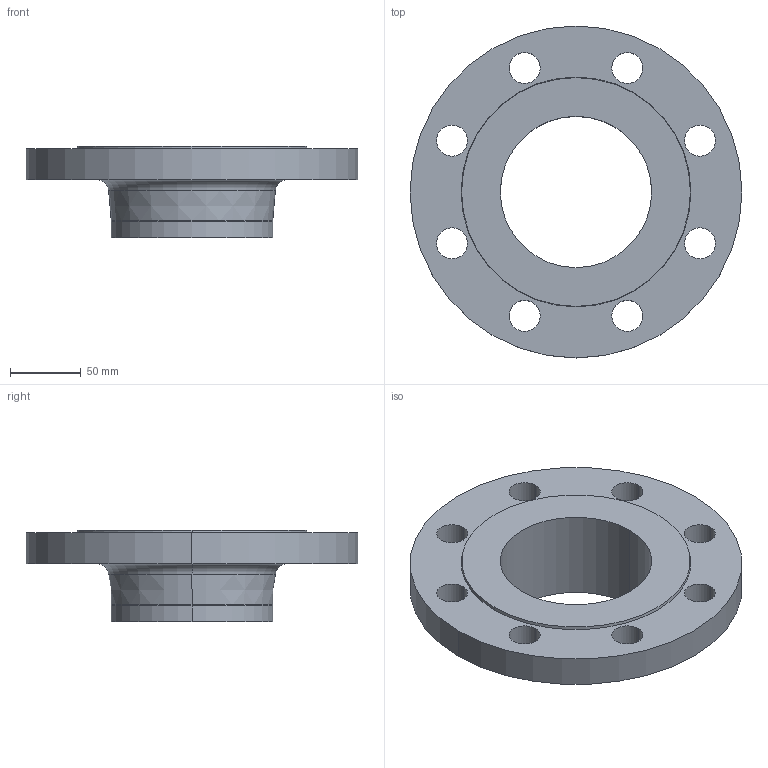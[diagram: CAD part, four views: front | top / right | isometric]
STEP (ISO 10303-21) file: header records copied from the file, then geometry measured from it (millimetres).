
FILE_DESCRIPTION (( 'STEP AP214' ), '1' );
FILE_NAME ('PN40 DN100 Type 11 - Type B Face.STEP', '2019-01-02T00:24:05', ( '' ), ( '' ), 'SwSTEP 2.0', 'SolidWorks 2019', '' );
FILE_SCHEMA (( 'AUTOMOTIVE_DESIGN' ));
Length unit declared in the file: millimetre
Products named in the file (1): PN40 DN100 Type 11 - Type B Face
Bounding box: 235 x 235 x 65 mm (x, y, z)
Volume: 781534.2 mm3; surface area: 126826.6 mm2
Topology: 1 solids, 1 shells, 34 faces, 84 edges, 54 vertices
Faces by surface type: cylinder 22, cone 4, torus 4, plane 4
Entity records: 1108 total; most frequent: DIRECTION 212, CARTESIAN_POINT 173, ORIENTED_EDGE 168, AXIS2_PLACEMENT_3D 93, EDGE_CURVE 84, CIRCLE 58, EDGE_LOOP 54, VERTEX_POINT 54
